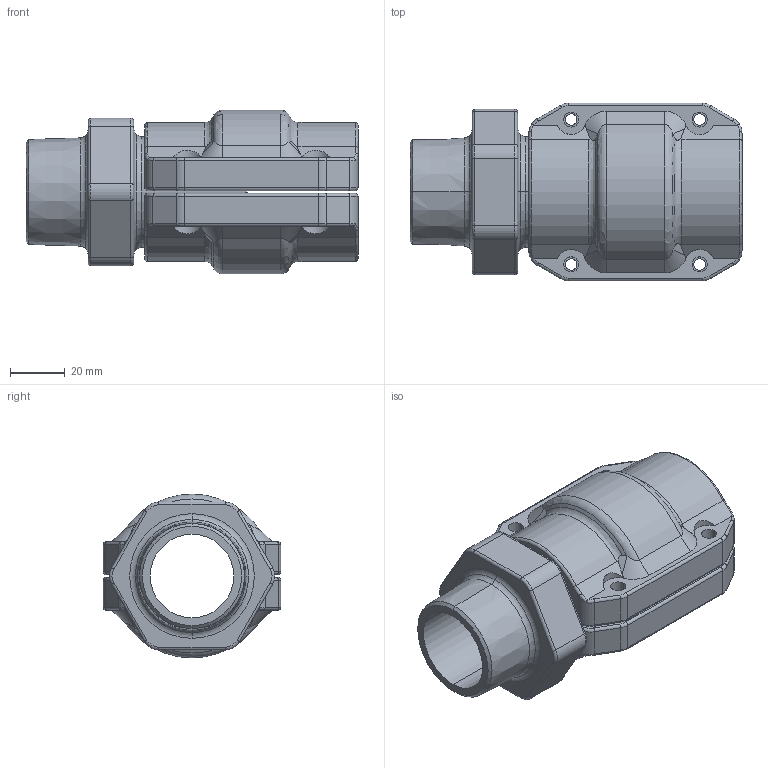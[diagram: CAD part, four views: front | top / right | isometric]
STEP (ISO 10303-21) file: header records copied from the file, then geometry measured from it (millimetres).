
FILE_DESCRIPTION((''),'2;1');
FILE_NAME('AU15431799_ASM_3_ASM_1_ASM','2017-05-16T',('Administrator'),(''),'PRO/ENGINEER BY PARAMETRIC TECHNOLOGY CORPORATION, 2009360','PRO/ENGINEER BY PARAMETRIC TECHNOLOGY CORPORATION, 2009360','');
FILE_SCHEMA(('AUTOMOTIVE_DESIGN_CC2 { 1 2 10303 214 -1 1 5 2 }'));
Length unit declared in the file: millimetre
Products named in the file (5): AU15431700_1_1; 201540020001_1_1; 201540020000_1_1; 2015400200_ASM_1_ASM_1_ASM; AU15431799_ASM_3_ASM_1_ASM
Assembly tree (4 placements, depth 3):
  AU15431799_ASM_3_ASM_1_ASM
    AU15431700_1_1
    2015400200_ASM_1_ASM_1_ASM
      201540020001_1_1
      201540020000_1_1
Bounding box: 121.5 x 65 x 59.9 mm (x, y, z)
Volume: 149798 mm3; surface area: 53425.1 mm2
Topology: 3 solids, 3 shells, 279 faces, 710 edges, 432 vertices
Faces by surface type: cylinder 116, torus 76, plane 47, bspline 24, cone 8, sphere 8
Entity records: 12025 total; most frequent: CARTESIAN_POINT 3080, DIRECTION 1474, ORIENTED_EDGE 1404, PRESENTATION_STYLE_ASSIGNMENT 705, STYLED_ITEM 705, CURVE_STYLE 702, EDGE_CURVE 702, AXIS2_PLACEMENT_3D 626
